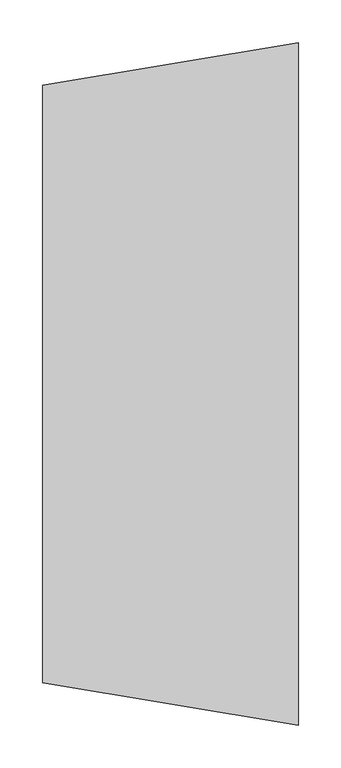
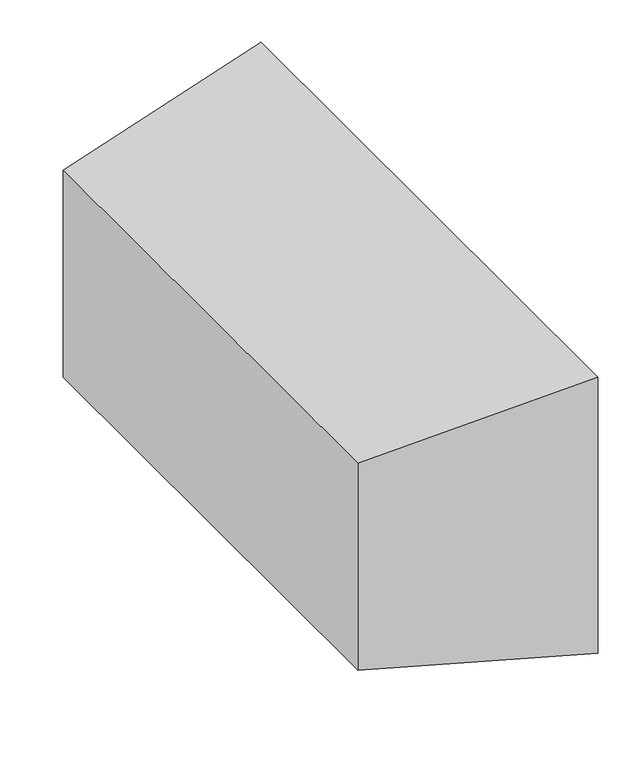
"""IFC4 building model written with IfcOpenShell, lengths in millimetres: duct fitting geometry, ADSK_ПереходникВоздуховодов_Прямоугольный1 : Стандартное 2."""

from ifc_helpers import new_model, si_unit, origin, place, context, project, spatial, faceted_brep, source, transform, mapped, element, save


def duct_fitting_6527c128(model_context):
    return source(origin(), model_context, "Body", "Brep", [
        faceted_brep([(300.0, -400.0, 200.0), (300.0, -400.0, -200.0), (300.0, 400.0, -200.0), (300.0, 400.0, 200.0), (0.0, -350.0, 150.0), (0.0, 350.0, 150.0), (0.0, 350.0, -150.0), (0.0, -350.0, -150.0)], [[[0, 1, 2, 3]], [[4, 5, 6, 7]], [[4, 7, 1, 0]], [[7, 6, 2, 1]], [[6, 5, 3, 2]], [[5, 4, 0, 3]]]),
    ])


if __name__ == "__main__":
    model = new_model("IFC4")
    model_context = context("Model", 3, world=origin())
    ifc_project = project(units=[si_unit("LENGTHUNIT", "METRE", prefix="MILLI")], contexts=[model_context])
    site = spatial("IfcSite", under=ifc_project)
    building = spatial("IfcBuilding", under=site)
    placement = place(None, origin())
    duct_fitting_shape = duct_fitting_6527c128(model_context)
    element("IfcDuctFitting", 1, ObjectType="ADSK_ПереходникВоздуховодов_Прямоугольный1 : Стандартное 2", at=placement, inside=building, context=model_context, shape_type="MappedRepresentation", body=[
        mapped(duct_fitting_shape, transform((0.0, 0.0, 0.0), x_axis=(1.0, 0.0, 0.0), y_axis=(0.0, 1.0, 0.0), z_axis=(0.0, 0.0, 1.0))),
    ])
    save(model, "model.ifc")
